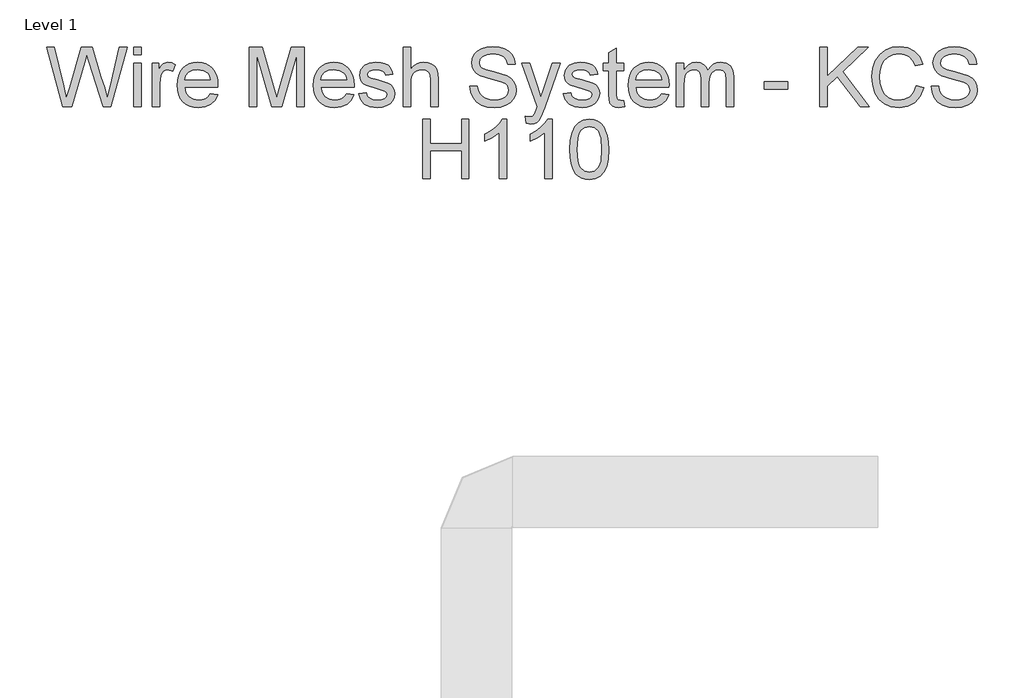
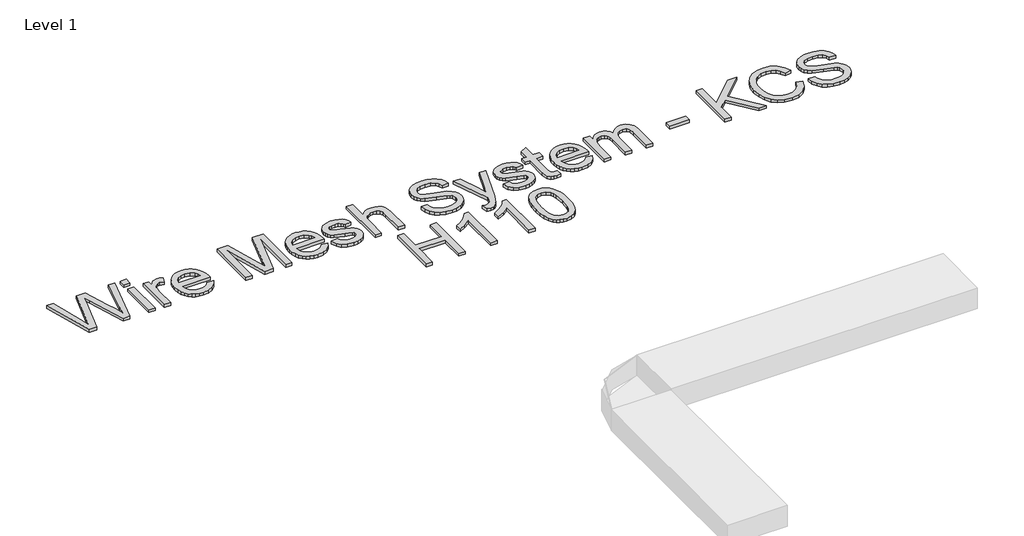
# One storey, part 19 of 32: 1 proxy.
"""IFC4 building model written with IfcOpenShell, lengths in millimetres."""

from ifc_helpers import new_model, si_unit, origin, origin_with_axes, place, context, project, spatial, polyline, outline, extrude, element, save

model = new_model("IFC4")

# Units and contexts
model_context = context("Model", 3, world=origin())
ifc_project = project(units=[si_unit("LENGTHUNIT", "METRE", prefix="MILLI")], contexts=[model_context])

# Site, building, storey
site = spatial("IfcSite", under=ifc_project)
building = spatial("IfcBuilding", under=site)
storey = spatial("IfcBuildingStorey", under=building, Name="Level 1", Elevation=0.0)

# Proxy
placement = place(None, origin())
element("IfcBuildingElementProxy", 1, Name="250mm Arial 3", ObjectType="250mm Arial 3", at=placement, inside=storey, context=model_context, shape_type="SweptSolid", body=[
    extrude(outline(polyline([(3816.2159742, 30303.1379564), (3747.7286094, 30554.2787318), (3780.102225, 30554.2787318), (3819.8334805, 30389.2223433), (3832.0962137, 30338.2706869), (3845.2173381, 30383.3362313), (3895.0040348, 30554.2787318), (3941.6637345, 30554.2787318), (3977.8387974, 30430.3638131), (3993.3358265, 30384.3785637), (4004.7554967, 30338.2706869), (4016.6503479, 30387.7508153), (4056.7494854, 30554.2787318), (4089.1231009, 30554.2787318), (4020.5744225, 30303.1379564), (3987.0358473, 30303.1379564), (3926.8258274, 30496.8891405), (3918.4258552, 30523.9284672), (3908.9835506, 30491.3709106), (3854.1078197, 30303.1379564), (3816.2159742, 30303.1379564)])), origin_with_axes(), (0.0, 0.0, 1.0), 15.0),
    extrude(outline(polyline([(4116.5916233, 30522.8861348), (4116.5916233, 30554.2787318), (4147.9842202, 30554.2787318), (4147.9842202, 30522.8861348), (4116.5916233, 30522.8861348)])), origin_with_axes(), (0.0, 0.0, 1.0), 15.0),
    extrude(outline(polyline([(4116.5916233, 30303.1379564), (4116.5916233, 30487.5694633), (4147.9842202, 30487.5694633), (4147.9842202, 30303.1379564), (4116.5916233, 30303.1379564)])), origin_with_axes(), (0.0, 0.0, 1.0), 15.0),
    extrude(outline(polyline([(4195.0731156, 30303.1379564), (4195.0731156, 30487.5694633), (4222.5416379, 30487.5694633), (4222.5416379, 30460.284882), (4232.6890496, 30476.1038078), (4242.0393836, 30485.423485), (4261.6597567, 30491.4935379), (4277.2947415, 30489.0716481), (4293.1749809, 30481.8059787), (4282.6903441, 30453.6630061), (4260.6174244, 30460.100941), (4251.2440977, 30458.5527709), (4242.8671181, 30453.9082608), (4231.5547467, 30436.7404343), (4226.4657125, 30400.0748621), (4226.4657125, 30303.1379564), (4195.0731156, 30303.1379564)])), origin_with_axes(), (0.0, 0.0, 1.0), 15.0),
    extrude(outline(polyline([(4441.9219343, 30358.075001), (4472.7013946, 30354.1509264), (4461.6112853, 30330.9590323), (4443.9146285, 30313.6225933), (4420.009963, 30302.8160597), (4390.2958277, 30299.2138818), (4370.8172424, 30300.7678), (4353.4616429, 30305.4295547), (4338.229029, 30313.1991458), (4325.1194009, 30324.0765733), (4314.5772824, 30337.759101), (4307.0471978, 30353.9439928), (4302.5291471, 30372.6312485), (4301.0231302, 30393.8208682), (4302.5444755, 30415.7290074), (4307.1085115, 30435.0389801), (4314.7152382, 30451.7507861), (4325.3646555, 30465.8644256), (4338.4397948, 30477.0771622), (4353.3236872, 30485.0862598), (4370.0163327, 30489.8917184), (4388.5177314, 30491.4935379), (4406.4232378, 30489.8955505), (4422.6157938, 30485.1015883), (4437.0953992, 30477.1116512), (4449.8620541, 30465.9257393), (4460.2834612, 30451.8427566), (4467.7273234, 30435.1616074), (4472.1936408, 30415.8822916), (4473.6824132, 30394.0048092), (4473.4984722, 30385.5435233), (4332.4157271, 30385.5435233), (4337.8496507, 30362.0450609), (4350.4726017, 30344.7699355), (4368.6904247, 30334.1473429), (4390.9089643, 30330.6064787), (4407.6169383, 30332.2466193), (4421.6884246, 30337.1670409), (4433.1234233, 30345.6743121), (4441.9219343, 30358.075001)]), holes=[polyline([(4332.4157271, 30416.9361202), (4442.2898163, 30416.9361202), (4438.043845, 30433.5214669), (4429.7205148, 30445.3856612), (4411.4183856, 30456.4221211), (4388.395104, 30460.100941), (4367.2342251, 30457.1655493), (4349.7368377, 30448.359374), (4337.5737392, 30434.632777), (4332.4157271, 30416.9361202)])]), origin_with_axes(), (0.0, 0.0, 1.0), 15.0),
    extrude(outline(polyline([(4607.1009502, 30303.1379564), (4607.1009502, 30554.2787318), (4661.1182898, 30554.2787318), (4712.4991418, 30377.2661784), (4722.8611513, 30340.2940379), (4734.0815522, 30380.3318617), (4784.6040128, 30554.2787318), (4838.6213525, 30554.2787318), (4838.6213525, 30303.1379564), (4807.2287555, 30303.1379564), (4807.2287555, 30522.8861348), (4744.1369934, 30303.1379564), (4701.5853093, 30303.1379564), (4638.4935471, 30522.8861348), (4638.4935471, 30303.1379564), (4607.1009502, 30303.1379564)])), origin_with_axes(), (0.0, 0.0, 1.0), 15.0),
    extrude(outline(polyline([(5018.7609028, 30358.075001), (5049.540363, 30354.1509264), (5038.4502537, 30330.9590323), (5020.7535969, 30313.6225933), (4996.8489314, 30302.8160597), (4967.1347961, 30299.2138818), (4947.6562109, 30300.7678), (4930.3006113, 30305.4295547), (4915.0679975, 30313.1991458), (4901.9583693, 30324.0765733), (4891.4162509, 30337.759101), (4883.8861663, 30353.9439928), (4879.3681155, 30372.6312485), (4877.8620986, 30393.8208682), (4879.3834439, 30415.7290074), (4883.9474799, 30435.0389801), (4891.5542066, 30451.7507861), (4902.203624, 30465.8644256), (4915.2787632, 30477.0771622), (4930.1626556, 30485.0862598), (4946.8553011, 30489.8917184), (4965.3566998, 30491.4935379), (4983.2622063, 30489.8955505), (4999.4547622, 30485.1015883), (5013.9343676, 30477.1116512), (5026.7010225, 30465.9257393), (5037.1224296, 30451.8427566), (5044.5662919, 30435.1616074), (5049.0326092, 30415.8822916), (5050.5213817, 30394.0048092), (5050.3374407, 30385.5435233), (4909.2546955, 30385.5435233), (4914.6886192, 30362.0450609), (4927.3115701, 30344.7699355), (4945.5293931, 30334.1473429), (4967.7479328, 30330.6064787), (4984.4559067, 30332.2466193), (4998.527393, 30337.1670409), (5009.9623917, 30345.6743121), (5018.7609028, 30358.075001)]), holes=[polyline([(4909.2546955, 30416.9361202), (5019.1287848, 30416.9361202), (5014.8828134, 30433.5214669), (5006.5594833, 30445.3856612), (4988.257354, 30456.4221211), (4965.2340725, 30460.100941), (4944.0731935, 30457.1655493), (4926.5758061, 30448.359374), (4914.4127077, 30434.632777), (4909.2546955, 30416.9361202)])]), origin_with_axes(), (0.0, 0.0, 1.0), 15.0),
    extrude(outline(polyline([(5070.1417548, 30358.075001), (5101.5343517, 30361.9990756), (5106.4854302, 30348.5713828), (5116.0656905, 30338.6998826), (5130.3364462, 30332.6298297), (5149.359011, 30330.6064787), (5168.1516496, 30332.4612171), (5181.3647446, 30338.0254323), (5189.182237, 30346.0881793), (5191.7880678, 30355.4385134), (5189.1669086, 30363.4399468), (5181.303431, 30369.5406565), (5148.9911291, 30378.4924517), (5101.7182927, 30393.851525), (5089.7544636, 30401.5693827), (5081.0862441, 30411.7857723), (5075.8209331, 30423.8492361), (5074.0658294, 30437.1083163), (5079.7066866, 30460.4994798), (5095.0964168, 30478.3724134), (5115.054015, 30487.6614338), (5142.0626848, 30491.4935379), (5162.495464, 30489.9530321), (5180.2610986, 30485.3315145), (5194.5471828, 30478.0811735), (5204.5413103, 30468.6541974), (5211.1631862, 30456.3531432), (5215.3325155, 30440.4805679), (5183.9399186, 30436.5564933), (5179.9775229, 30446.4356577), (5172.1370379, 30453.8776039), (5160.3418214, 30458.5451067), (5144.5152314, 30460.100941), (5126.4890137, 30458.6140846), (5114.4715352, 30454.1535154), (5107.7117035, 30447.7155805), (5105.4584263, 30440.2966269), (5109.1985599, 30431.1608907), (5120.9094701, 30424.2324465), (5147.9487967, 30417.5492569), (5194.0260166, 30402.7726634), (5206.1967793, 30395.7062634), (5215.424486, 30386.0340326), (5221.2416201, 30373.7253142), (5223.1806647, 30358.7494513), (5220.9043949, 30343.2677507), (5214.0755854, 30328.7057551), (5202.9548192, 30316.2054314), (5187.8026795, 30306.9087468), (5169.5005503, 30301.137598), (5148.9298154, 30299.2138818), (5117.2766354, 30302.9233586), (5094.1767118, 30314.0517889), (5078.7563248, 30332.4765455), (5070.1417548, 30358.075001)])), origin_with_axes(), (0.0, 0.0, 1.0), 15.0),
    extrude(outline(polyline([(5258.4973363, 30303.1379564), (5258.4973363, 30554.2787318), (5289.8899332, 30554.2787318), (5289.8899332, 30461.940351), (5301.4207345, 30474.8698703), (5314.3694143, 30484.1052412), (5328.7359726, 30489.6464637), (5344.5204095, 30491.4935379), (5363.4816607, 30489.4778512), (5379.7757674, 30483.4307909), (5392.6056519, 30473.8275379), (5401.1742367, 30461.1432733), (5406.0026879, 30443.7148638), (5407.6121717, 30419.8791762), (5407.6121717, 30303.1379564), (5376.2195747, 30303.1379564), (5376.2195747, 30416.6295519), (5373.7210429, 30436.2805818), (5366.2254472, 30449.7389315), (5354.146655, 30457.5104386), (5337.8985336, 30460.100941), (5324.6317891, 30458.3535015), (5312.1774507, 30453.1111831), (5301.8614265, 30444.8798235), (5295.0096243, 30434.1652603), (5291.169856, 30419.9251614), (5289.8899332, 30401.1171944), (5289.8899332, 30303.1379564), (5258.4973363, 30303.1379564)])), origin_with_axes(), (0.0, 0.0, 1.0), 15.0),
    extrude(outline(polyline([(5541.0307086, 30389.4675979), (5572.4233055, 30389.4675979), (5576.0254834, 30372.0468526), (5582.5400604, 30358.0443442), (5592.7028005, 30346.9312422), (5607.2494677, 30338.1787164), (5625.0304308, 30332.4995381), (5644.8960586, 30330.6064787), (5662.3857817, 30332.0396856), (5677.6988698, 30336.3393065), (5690.1072229, 30343.1451234), (5698.8827413, 30352.0969186), (5704.1020672, 30362.3746218), (5705.8418424, 30373.1581628), (5700.6301808, 30392.7478791), (5692.6900611, 30400.4963936), (5679.2930251, 30407.0033064), (5633.5836872, 30418.990128), (5584.3794703, 30434.4718287), (5568.7521498, 30445.0331076), (5557.6773689, 30457.8323354), (5551.0784856, 30472.5936004), (5548.8788578, 30489.0409913), (5551.5996517, 30507.4274268), (5559.7620335, 30524.5722607), (5573.1514053, 30539.1035995), (5591.5531693, 30549.64955), (5613.6414174, 30556.0644923), (5638.0902416, 30558.2028064), (5664.5777453, 30555.9648576), (5687.754311, 30549.2510112), (5706.7922042, 30538.1992229), (5720.8636906, 30522.9474485), (5729.7695005, 30504.4460498), (5733.3103647, 30483.6453887), (5701.9177678, 30483.6453887), (5696.1542832, 30502.3767136), (5684.1368047, 30515.8963769), (5665.3594945, 30524.0817513), (5639.316515, 30526.8102095), (5612.6603987, 30524.1124082), (5594.3735979, 30516.0190043), (5583.7969905, 30504.1088247), (5580.2714547, 30489.9606963), (5582.7699866, 30477.8972325), (5590.2655823, 30468.1943449), (5607.9852317, 30459.5184612), (5641.5238069, 30450.6586365), (5697.0739882, 30434.9010243), (5714.9699144, 30423.5120109), (5727.4549096, 30409.455853), (5734.7895569, 30392.8858348), (5737.2344393, 30373.9552405), (5734.4216749, 30354.6031147), (5725.9833817, 30336.4006201), (5712.2644489, 30320.7349785), (5693.6097661, 30308.9934115), (5671.1766286, 30301.6587642), (5646.1223319, 30299.2138818), (5615.3658642, 30301.8503694), (5590.0509844, 30309.7598323), (5569.8864526, 30322.9729273), (5554.5810287, 30341.5203112), (5544.7555138, 30364.1143971), (5541.0307086, 30389.4675979)])), origin_with_axes(), (0.0, 0.0, 1.0), 15.0),
    extrude(outline(polyline([(5780.3992601, 30232.5046133), (5776.4751855, 30262.7322506), (5792.4167386, 30259.9731356), (5807.3159594, 30263.4373577), (5816.4516956, 30273.0942601), (5825.0356089, 30296.2095122), (5827.4881555, 30303.8124067), (5760.778887, 30487.5694633), (5793.8882666, 30487.5694633), (5829.2662518, 30385.1756413), (5841.5902986, 30344.2181125), (5853.9143455, 30380.3931754), (5890.2733493, 30487.5694633), (5923.1374742, 30487.5694633), (5858.9420661, 30298.7233725), (5842.264749, 30257.7658437), (5833.726821, 30244.6907044), (5824.0545902, 30235.6316103), (5812.8188609, 30230.3433066), (5799.5904375, 30228.5805387), (5780.3992601, 30232.5046133)])), origin_with_axes(), (0.0, 0.0, 1.0), 15.0),
    extrude(outline(polyline([(5937.3622447, 30358.075001), (5968.7548416, 30361.9990756), (5973.7059202, 30348.5713828), (5983.2861804, 30338.6998826), (5997.5569362, 30332.6298297), (6016.579501, 30330.6064787), (6035.3721396, 30332.4612171), (6048.5852346, 30338.0254323), (6056.402727, 30346.0881793), (6059.0085578, 30355.4385134), (6056.3873986, 30363.4399468), (6048.5239209, 30369.5406565), (6016.211619, 30378.4924517), (5968.9387826, 30393.851525), (5956.9749536, 30401.5693827), (5948.3067341, 30411.7857723), (5943.041423, 30423.8492361), (5941.2863193, 30437.1083163), (5946.9271766, 30460.4994798), (5962.3169067, 30478.3724134), (5982.274505, 30487.6614338), (6009.2831748, 30491.4935379), (6029.7159539, 30489.9530321), (6047.4815886, 30485.3315145), (6061.7676728, 30478.0811735), (6071.7618003, 30468.6541974), (6078.3836762, 30456.3531432), (6082.5530055, 30440.4805679), (6051.1604086, 30436.5564933), (6047.1980129, 30446.4356577), (6039.3575279, 30453.8776039), (6027.5623114, 30458.5451067), (6011.7357214, 30460.100941), (5993.7095036, 30458.6140846), (5981.6920251, 30454.1535154), (5974.9321935, 30447.7155805), (5972.6789163, 30440.2966269), (5976.4190499, 30431.1608907), (5988.1299601, 30424.2324465), (6015.1692867, 30417.5492569), (6061.2465066, 30402.7726634), (6073.4172693, 30395.7062634), (6082.644976, 30386.0340326), (6088.46211, 30373.7253142), (6090.4011547, 30358.7494513), (6088.1248849, 30343.2677507), (6081.2960753, 30328.7057551), (6070.1753092, 30316.2054314), (6055.0231695, 30306.9087468), (6036.7210402, 30301.137598), (6016.1503054, 30299.2138818), (5984.4971253, 30302.9233586), (5961.3972017, 30314.0517889), (5945.9768148, 30332.4765455), (5937.3622447, 30358.075001)])), origin_with_axes(), (0.0, 0.0, 1.0), 15.0),
    extrude(outline(polyline([(6192.4270947, 30329.3188917), (6196.3511693, 30302.2182514), (6172.8680353, 30299.2138818), (6157.8002019, 30300.5167972), (6146.5644726, 30304.4255434), (6133.4433481, 30318.0984909), (6129.6419009, 30353.7217307), (6129.6419009, 30456.1768664), (6106.0974532, 30456.1768664), (6106.0974532, 30487.5694633), (6129.6419009, 30487.5694633), (6129.6419009, 30532.3897531), (6161.0344978, 30550.8451665), (6161.0344978, 30487.5694633), (6192.4270947, 30487.5694633), (6192.4270947, 30456.1768664), (6161.0344978, 30456.1768664), (6161.0344978, 30354.6414357), (6162.6899668, 30338.4546279), (6168.0549125, 30332.7218002), (6178.7541472, 30330.6064787), (6192.4270947, 30329.3188917)])), origin_with_axes(), (0.0, 0.0, 1.0), 15.0),
    extrude(outline(polyline([(6352.9462719, 30358.075001), (6383.7257322, 30354.1509264), (6372.6356229, 30330.9590323), (6354.9389661, 30313.6225933), (6331.0343006, 30302.8160597), (6301.3201653, 30299.2138818), (6281.8415801, 30300.7678), (6264.4859805, 30305.4295547), (6249.2533666, 30313.1991458), (6236.1437385, 30324.0765733), (6225.60162, 30337.759101), (6218.0715355, 30353.9439928), (6213.5534847, 30372.6312485), (6212.0474678, 30393.8208682), (6213.5688131, 30415.7290074), (6218.1328491, 30435.0389801), (6225.7395758, 30451.7507861), (6236.3889931, 30465.8644256), (6249.4641324, 30477.0771622), (6264.3480248, 30485.0862598), (6281.0406703, 30489.8917184), (6299.542069, 30491.4935379), (6317.4475755, 30489.8955505), (6333.6401314, 30485.1015883), (6348.1197368, 30477.1116512), (6360.8863917, 30465.9257393), (6371.3077988, 30451.8427566), (6378.7516611, 30435.1616074), (6383.2179784, 30415.8822916), (6384.7067509, 30394.0048092), (6384.5228099, 30385.5435233), (6243.4400647, 30385.5435233), (6248.8739883, 30362.0450609), (6261.4969393, 30344.7699355), (6279.7147623, 30334.1473429), (6301.9333019, 30330.6064787), (6318.6412759, 30332.2466193), (6332.7127622, 30337.1670409), (6344.1477609, 30345.6743121), (6352.9462719, 30358.075001)]), holes=[polyline([(6243.4400647, 30416.9361202), (6353.3141539, 30416.9361202), (6349.0681826, 30433.5214669), (6340.7448524, 30445.3856612), (6322.4427232, 30456.4221211), (6299.4194416, 30460.100941), (6278.2585627, 30457.1655493), (6260.7611753, 30448.359374), (6248.5980768, 30434.632777), (6243.4400647, 30416.9361202)])]), origin_with_axes(), (0.0, 0.0, 1.0), 15.0),
    extrude(outline(polyline([(6416.0993478, 30303.1379564), (6416.0993478, 30487.5694633), (6447.4919447, 30487.5694633), (6447.4919447, 30457.2191987), (6456.9342492, 30471.1603935), (6469.0743551, 30482.0818902), (6483.498395, 30489.140626), (6499.7925017, 30491.4935379), (6517.251568, 30489.0946407), (6531.2464123, 30481.8979492), (6541.7003923, 30470.3786442), (6548.536866, 30455.0119067), (6559.9795289, 30470.9726204), (6573.0316756, 30482.3731301), (6587.6933059, 30489.213436), (6603.96442, 30491.4935379), (6627.5625171, 30487.6997549), (6645.0139193, 30476.3184056), (6655.7974603, 30457.0429219), (6659.3919739, 30429.5667354), (6659.3919739, 30303.1379564), (6627.999377, 30303.1379564), (6627.999377, 30416.0777289), (6625.0869779, 30442.2893211), (6614.5410273, 30455.1958477), (6596.6067801, 30460.100941), (6579.599902, 30456.9586156), (6565.7353493, 30447.5316395), (6556.5153068, 30431.1762191), (6553.4419593, 30407.248561), (6553.4419593, 30303.1379564), (6522.0493624, 30303.1379564), (6522.0493624, 30419.5726079), (6520.232945, 30437.3229141), (6514.783693, 30449.9841861), (6505.1957685, 30457.5717523), (6490.9633338, 30460.100941), (6478.8692132, 30458.4148152), (6467.7254544, 30453.3564378), (6458.5284046, 30445.048436), (6452.2744106, 30433.6134374), (6447.4919447, 30396.1507875), (6447.4919447, 30303.1379564), (6416.0993478, 30303.1379564)])), origin_with_axes(), (0.0, 0.0, 1.0), 15.0),
    extrude(outline(polyline([(6788.8864362, 30377.6953741), (6788.8864362, 30409.087971), (6886.9883016, 30409.087971), (6886.9883016, 30377.6953741), (6788.8864362, 30377.6953741)])), origin_with_axes(), (0.0, 0.0, 1.0), 15.0),
    extrude(outline(polyline([(7024.3309131, 30303.1379564), (7024.3309131, 30554.2787318), (7055.7235101, 30554.2787318), (7055.7235101, 30431.3448317), (7184.4822084, 30554.2787318), (7228.3827931, 30554.2787318), (7120.2868002, 30451.0265185), (7232.3068677, 30303.1379564), (7193.9245129, 30303.1379564), (7098.0299395, 30429.8119901), (7055.7235101, 30389.4675979), (7055.7235101, 30303.1379564), (7024.3309131, 30303.1379564)])), origin_with_axes(), (0.0, 0.0, 1.0), 15.0),
    extrude(outline(polyline([(7432.4346731, 30392.4106539), (7463.82727, 30384.31725), (7449.3419165, 30347.7359841), (7426.6098749, 30321.01089), (7396.7501196, 30304.6631338), (7360.8816251, 30299.2138818), (7324.4689717, 30303.3372258), (7295.5519141, 30315.7072579), (7273.3870239, 30335.8947824), (7257.2308729, 30363.4706036), (7247.3670369, 30395.8902044), (7244.0790916, 30430.6090677), (7247.7962326, 30467.2286547), (7258.9476556, 30498.8511778), (7276.9508807, 30524.472626), (7301.2234282, 30543.0889877), (7330.0101943, 30554.4243517), (7361.5560754, 30558.2028064), (7395.9760346, 30553.3130415), (7424.4332397, 30538.643747), (7446.0386427, 30515.0992993), (7459.9031954, 30483.584075), (7428.5105985, 30476.1038078), (7417.6274228, 30498.9967978), (7402.7588588, 30514.7007605), (7383.7209656, 30523.7828472), (7360.3298021, 30526.8102095), (7333.3671175, 30523.4532863), (7311.2175557, 30513.3825166), (7294.4099471, 30497.6555613), (7283.4731219, 30477.3300811), (7277.4720469, 30454.3527848), (7275.4716885, 30430.6703814), (7277.8399289, 30401.6690174), (7284.9446499, 30376.5917281), (7297.0540989, 30356.3965394), (7314.4365232, 30342.0414774), (7335.2755053, 30333.4652284), (7357.7546281, 30330.6064787), (7383.958556, 30334.4998965), (7405.7938853, 30346.1801498), (7422.2795972, 30365.5246114), (7432.4346731, 30392.4106539)])), origin_with_axes(), (0.0, 0.0, 1.0), 15.0),
    extrude(outline(polyline([(7495.219867, 30389.4675979), (7526.6124639, 30389.4675979), (7530.2146418, 30372.0468526), (7536.7292187, 30358.0443442), (7546.8919589, 30346.9312422), (7561.4386261, 30338.1787164), (7579.2195892, 30332.4995381), (7599.0852169, 30330.6064787), (7616.5749401, 30332.0396856), (7631.8880282, 30336.3393065), (7644.2963813, 30343.1451234), (7653.0718997, 30352.0969186), (7658.2912255, 30362.3746218), (7660.0310008, 30373.1581628), (7654.8193392, 30392.7478791), (7646.8792195, 30400.4963936), (7633.4821835, 30407.0033064), (7587.7728456, 30418.990128), (7538.5686287, 30434.4718287), (7522.9413081, 30445.0331076), (7511.8665272, 30457.8323354), (7505.267644, 30472.5936004), (7503.0680162, 30489.0409913), (7505.7888101, 30507.4274268), (7513.9511919, 30524.5722607), (7527.3405637, 30539.1035995), (7545.7423276, 30549.64955), (7567.8305758, 30556.0644923), (7592.2794, 30558.2028064), (7618.7669037, 30555.9648576), (7641.9434694, 30549.2510112), (7660.9813626, 30538.1992229), (7675.0528489, 30522.9474485), (7683.9586589, 30504.4460498), (7687.4995231, 30483.6453887), (7656.1069262, 30483.6453887), (7650.3434416, 30502.3767136), (7638.3259631, 30515.8963769), (7619.5486529, 30524.0817513), (7593.5056733, 30526.8102095), (7566.8495571, 30524.1124082), (7548.5627563, 30516.0190043), (7537.9861489, 30504.1088247), (7534.4606131, 30489.9606963), (7536.959145, 30477.8972325), (7544.4547406, 30468.1943449), (7562.1743901, 30459.5184612), (7595.7129653, 30450.6586365), (7651.2631466, 30434.9010243), (7669.1590728, 30423.5120109), (7681.644068, 30409.455853), (7688.9787153, 30392.8858348), (7691.4235977, 30373.9552405), (7688.6108333, 30354.6031147), (7680.17254, 30336.4006201), (7666.4536073, 30320.7349785), (7647.7989245, 30308.9934115), (7625.365787, 30301.6587642), (7600.3114902, 30299.2138818), (7569.5550226, 30301.8503694), (7544.2401428, 30309.7598323), (7524.075611, 30322.9729273), (7508.7701871, 30341.5203112), (7498.9446722, 30364.1143971), (7495.219867, 30389.4675979)])), origin_with_axes(), (0.0, 0.0, 1.0), 15.0),
    extrude(outline(polyline([(5340.9029032, 29998.2009118), (5340.9029032, 30249.3416872), (5372.2955001, 30249.3416872), (5372.2955001, 30147.3157472), (5505.714037, 30147.3157472), (5505.714037, 30249.3416872), (5537.106634, 30249.3416872), (5537.106634, 29998.2009118), (5505.714037, 29998.2009118), (5505.714037, 30115.9231502), (5372.2955001, 30115.9231502), (5372.2955001, 29998.2009118), (5340.9029032, 29998.2009118)])), origin_with_axes(), (0.0, 0.0, 1.0), 15.0),
    extrude(outline(polyline([(5697.9936932, 29998.2009118), (5666.6010963, 29998.2009118), (5666.6010963, 30193.9141332), (5636.8639683, 30172.7302617), (5603.8159024, 30156.880679), (5603.8159024, 30186.5564933), (5628.4716603, 30199.9688577), (5649.8318087, 30215.9257393), (5666.6700741, 30232.8942963), (5677.7601835, 30249.3416872), (5697.9936932, 30249.3416872), (5697.9936932, 29998.2009118)])), origin_with_axes(), (0.0, 0.0, 1.0), 15.0),
    extrude(outline(polyline([(5890.2733493, 29998.2009118), (5858.8807524, 29998.2009118), (5858.8807524, 30193.9141332), (5829.1436245, 30172.7302617), (5796.0955586, 30156.880679), (5796.0955586, 30186.5564933), (5820.7513165, 30199.9688577), (5842.1114648, 30215.9257393), (5858.9497303, 30232.8942963), (5870.0398396, 30249.3416872), (5890.2733493, 30249.3416872), (5890.2733493, 29998.2009118)])), origin_with_axes(), (0.0, 0.0, 1.0), 15.0),
    extrude(outline(polyline([(5964.830767, 30121.7479485), (5967.1376937, 30161.9467207), (5974.0584737, 30194.0061037), (5985.5241293, 30218.4166069), (6001.4656824, 30235.6687397), (6021.9980962, 30245.9234503), (6047.2363339, 30249.3416872), (6066.5807955, 30247.3183362), (6083.9019061, 30241.2482833), (6098.3872597, 30231.3691189), (6109.2244501, 30217.9184334), (6123.9397299, 30180.7623519), (6128.2163581, 30155.0489333), (6129.6419009, 30121.7479485), (6127.3579668, 30081.7791026), (6120.5061647, 30049.7963616), (6109.109487, 30025.3628658), (6093.1909265, 30008.0417552), (6072.6125274, 29997.7180667), (6047.2363339, 29994.2768372), (6029.9458802, 29995.7713578), (6014.6174637, 30000.2549196), (6001.2510845, 30007.7275226), (5989.8467427, 30018.1891669), (5978.9022533, 30037.1006007), (5971.0847609, 30060.6642089), (5966.3942655, 30088.8799915), (5964.830767, 30121.7479485)]), holes=[polyline([(5996.2233639, 30121.8092622), (5999.9021839, 30072.4287685), (6004.5007088, 30055.5387696), (6010.9386438, 30043.848936), (6027.3707062, 30030.2143096), (6047.2363339, 30025.6694341), (6067.1019617, 30030.229638), (6083.5340241, 30043.9102497), (6089.9719591, 30055.6192438), (6094.570484, 30072.5054106), (6098.2493039, 30121.8092622), (6094.6931113, 30170.0784456), (6090.2478705, 30186.912879), (6084.0245335, 30198.8805402), (6067.6231278, 30213.1819527), (6046.8684519, 30217.9490902), (6027.217422, 30213.7491041), (6011.4291531, 30201.1491458), (6004.7766203, 30188.1199918), (6000.0248112, 30170.5536265), (5996.2233639, 30121.8092622)])]), origin_with_axes(), (0.0, 0.0, 1.0), 15.0),
])

save(model, "model.ifc")
